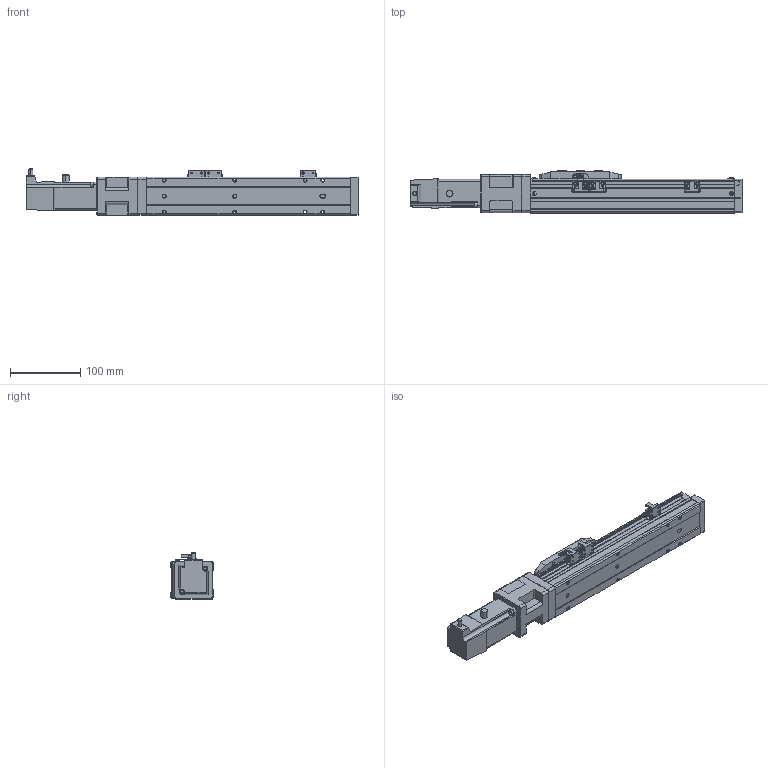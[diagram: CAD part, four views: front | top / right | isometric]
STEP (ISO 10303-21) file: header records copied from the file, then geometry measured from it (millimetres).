
FILE_DESCRIPTION (( 'STEP AP203' ), '1' );
FILE_NAME ('CTH5-L10-S150-BC-C10(¼ò).STEP', '2023-02-04T02:10:16', ( '' ), ( '' ), 'SwSTEP 2.0', 'SolidWorks 2018', '' );
FILE_SCHEMA (( 'CONFIG_CONTROL_DESIGN' ));
Length unit declared in the file: millimetre
Products named in the file (21): CTH5萇儂釱; 葩璃 蚾饜极13^CTH8-L10-S50-BM-C40(潠)1; 内六角圆柱头螺钉M3-2; CTH5菁釱-L290; M3｡｣; CTH5賑怢; CTH5-BC-03; 100W萇儂; CTH嫖萇羲壽假蚾啣; hex nuts, style 1-grades ab gb_GB_FASTENER_NUT_SNAB1 M3-N; CTH5ヶ耜啣(潠); CTH5耜晚蹟隊-1; CTH5耜晚蹟隊; 嫖萇羲壽郪磁1; M3; PM-Y45; CTH5萇儂釱欶; CTH5綴耜啣; CTH5-L10-S150-BC-C10(潠); CTH5覜茼え; T10-p1
Assembly tree (37 placements, depth 3):
  CTH5-L10-S150-BC-C10(潠)
    CTH5綴耜啣
    CTH5賑怢
    CTH5ヶ耜啣(潠)
    CTH5菁釱-L290
    CTH5耜晚蹟隊  x2
    CTH5萇儂釱
      CTH5-BC-03
    CTH5萇儂釱欶
    100W萇儂
      T10-p1
    嫖萇羲壽郪磁1  x2
      CTH嫖萇羲壽假蚾啣
      PM-Y45
      M3｡｣
      内六角圆柱头螺钉M3-2
      hex nuts, style 1-grades ab gb_GB_FASTENER_NUT_SNAB1 M3-N
    CTH5覜茼え
    葩璃 蚾饜极13^CTH8-L10-S50-BM-C40(潠)1
      CTH嫖萇羲壽假蚾啣
      PM-Y45
      内六角圆柱头螺钉M3-2  x2
      M3｡｣  x2
      hex nuts, style 1-grades ab gb_GB_FASTENER_NUT_SNAB1 M3-N  x2
    M3  x2
    CTH5耜晚蹟隊-1  x4
Bounding box: 471.1 x 60 x 65.7 mm (x, y, z)
Volume: 992399.2 mm3; surface area: 170163.7 mm2
Topology: 40 solids, 40 shells, 1491 faces, 3710 edges, 2398 vertices
Faces by surface type: plane 848, cylinder 430, cone 151, torus 44, bspline 18
Entity records: 33039 total; most frequent: CARTESIAN_POINT 6056, DIRECTION 5186, ORIENTED_EDGE 4968, EDGE_CURVE 2484, AXIS2_PLACEMENT_3D 1775, VECTOR 1636, LINE 1636, VERTEX_POINT 1604
